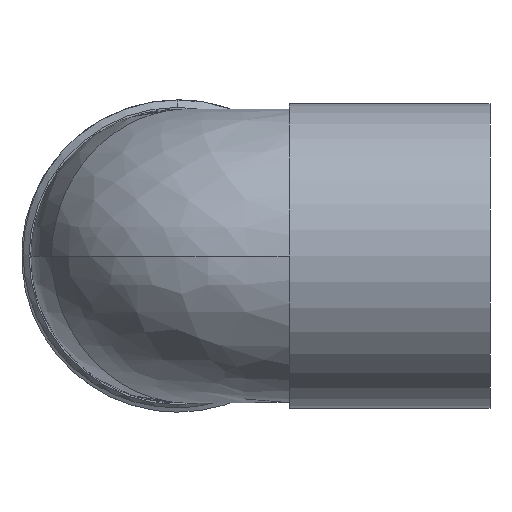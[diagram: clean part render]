
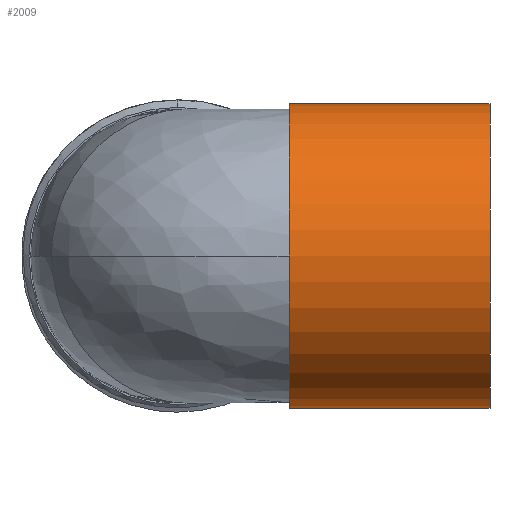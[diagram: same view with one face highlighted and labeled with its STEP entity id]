
A CAD part, left-side view. The second image highlights one B-rep face of the part: STEP entity #2009.
In plain terms, the highlighted cylindrical face has radius 20.5 mm (diameter 41 mm), a partial arc.
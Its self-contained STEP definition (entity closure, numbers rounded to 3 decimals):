
#117 = DIRECTION ( 'NONE',  ( 0., 0., 1. ) ) ;
#118 = DIRECTION ( 'NONE',  ( 0., 1., 0. ) ) ;
#119 = CARTESIAN_POINT ( 'NONE',  ( 0., -15., 0. ) ) ;
#120 = AXIS2_PLACEMENT_3D ( 'NONE', #119, #118, #117 ) ;
#167 = CIRCLE ( 'NONE', #120, 20.5 ) ;
#259 = FACE_OUTER_BOUND ( 'NONE', #2023, .T. ) ;
#352 = CARTESIAN_POINT ( 'NONE',  ( 0., -15., -20.5 ) ) ;
#375 = DIRECTION ( 'NONE',  ( 0., 0., 1. ) ) ;
#376 = DIRECTION ( 'NONE',  ( 0., 1., 0. ) ) ;
#377 = CARTESIAN_POINT ( 'NONE',  ( 0., 88.08, 0. ) ) ;
#378 = AXIS2_PLACEMENT_3D ( 'NONE', #377, #376, #375 ) ;
#379 = CYLINDRICAL_SURFACE ( 'NONE', #378, 20.5 ) ;
#382 = DIRECTION ( 'NONE',  ( 0., 0., 1. ) ) ;
#383 = DIRECTION ( 'NONE',  ( 0., 1., 0. ) ) ;
#384 = CARTESIAN_POINT ( 'NONE',  ( 0., -42., 0. ) ) ;
#385 = AXIS2_PLACEMENT_3D ( 'NONE', #384, #383, #382 ) ;
#386 = CIRCLE ( 'NONE', #385, 20.5 ) ;
#399 = CARTESIAN_POINT ( 'NONE',  ( 0., -42., -20.5 ) ) ;
#408 = DIRECTION ( 'NONE',  ( 0., 1., 0. ) ) ;
#409 = VECTOR ( 'NONE', #408, 1000. ) ;
#410 = CARTESIAN_POINT ( 'NONE',  ( 0., 88.08, 20.5 ) ) ;
#411 = LINE ( 'NONE', #410, #409 ) ;
#412 = CARTESIAN_POINT ( 'NONE',  ( 0., -15., 20.5 ) ) ;
#423 = DIRECTION ( 'NONE',  ( 0., 1., 0. ) ) ;
#424 = VECTOR ( 'NONE', #423, 1000. ) ;
#439 = CARTESIAN_POINT ( 'NONE',  ( 0., 88.08, -20.5 ) ) ;
#440 = LINE ( 'NONE', #439, #424 ) ;
#441 = CARTESIAN_POINT ( 'NONE',  ( 0., -42., 20.5 ) ) ;
#1993 = ORIENTED_EDGE ( 'NONE', *, *, #1998, .F. ) ;
#1996 = ORIENTED_EDGE ( 'NONE', *, *, #2056, .T. ) ;
#1998 = EDGE_CURVE ( 'NONE', #2022, #2054, #167, .T. ) ;
#2009 = ADVANCED_FACE ( 'NONE', ( #259 ), #379, .T. ) ;
#2022 = VERTEX_POINT ( 'NONE', #352 ) ;
#2023 = EDGE_LOOP ( 'NONE', ( #2024, #2025, #1996, #1993 ) ) ;
#2024 = ORIENTED_EDGE ( 'NONE', *, *, #2047, .F. ) ;
#2025 = ORIENTED_EDGE ( 'NONE', *, *, #2040, .T. ) ;
#2026 = VERTEX_POINT ( 'NONE', #399 ) ;
#2040 = EDGE_CURVE ( 'NONE', #2026, #2046, #386, .T. ) ;
#2046 = VERTEX_POINT ( 'NONE', #441 ) ;
#2047 = EDGE_CURVE ( 'NONE', #2026, #2022, #440, .T. ) ;
#2054 = VERTEX_POINT ( 'NONE', #412 ) ;
#2056 = EDGE_CURVE ( 'NONE', #2046, #2054, #411, .T. ) ;
